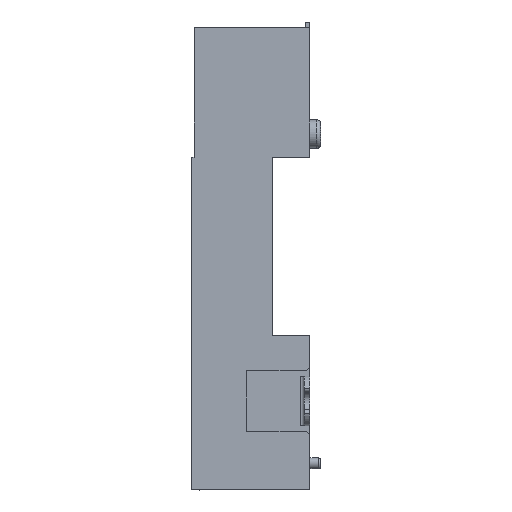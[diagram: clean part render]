
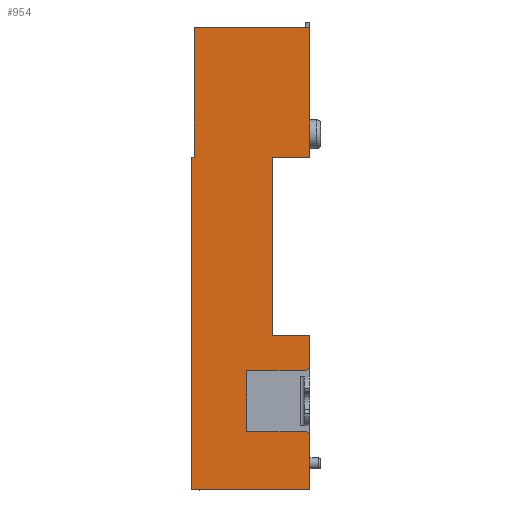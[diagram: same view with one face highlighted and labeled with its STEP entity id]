
A CAD part, left-side view. The second image highlights one B-rep face of the part: STEP entity #954.
In plain terms, the highlighted planar face has unit normal (-1, 0, 0).
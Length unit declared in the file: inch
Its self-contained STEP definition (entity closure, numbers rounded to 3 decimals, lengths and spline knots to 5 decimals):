
#954=ADVANCED_FACE('',(#2798),#2011,.F.);
#2011=PLANE('',#20230);
#2798=FACE_OUTER_BOUND('',#4362,.T.);
#4362=EDGE_LOOP('',(#6546,#6547,#6548,#6549,#6550,#6551,#6552,#6553,#6554,
#6555,#6556,#6557,#6558,#6559,#6560,#6561));
#6546=ORIENTED_EDGE('',*,*,#13780,.T.);
#6547=ORIENTED_EDGE('',*,*,#13781,.T.);
#6548=ORIENTED_EDGE('',*,*,#13782,.T.);
#6549=ORIENTED_EDGE('',*,*,#13783,.T.);
#6550=ORIENTED_EDGE('',*,*,#13772,.T.);
#6551=ORIENTED_EDGE('',*,*,#13543,.F.);
#6552=ORIENTED_EDGE('',*,*,#13784,.F.);
#6553=ORIENTED_EDGE('',*,*,#13785,.T.);
#6554=ORIENTED_EDGE('',*,*,#13745,.T.);
#6555=ORIENTED_EDGE('',*,*,#13786,.F.);
#6556=ORIENTED_EDGE('',*,*,#13787,.T.);
#6557=ORIENTED_EDGE('',*,*,#13788,.T.);
#6558=ORIENTED_EDGE('',*,*,#13789,.T.);
#6559=ORIENTED_EDGE('',*,*,#13790,.T.);
#6560=ORIENTED_EDGE('',*,*,#13791,.T.);
#6561=ORIENTED_EDGE('',*,*,#13792,.T.);
#11648=VERTEX_POINT('',#28552);
#11649=VERTEX_POINT('',#28554);
#11789=VERTEX_POINT('',#28970);
#11790=VERTEX_POINT('',#28972);
#11807=VERTEX_POINT('',#29023);
#11814=VERTEX_POINT('',#29039);
#11815=VERTEX_POINT('',#29040);
#11816=VERTEX_POINT('',#29042);
#11817=VERTEX_POINT('',#29044);
#11818=VERTEX_POINT('',#29047);
#11819=VERTEX_POINT('',#29050);
#11820=VERTEX_POINT('',#29052);
#11821=VERTEX_POINT('',#29054);
#11822=VERTEX_POINT('',#29056);
#11823=VERTEX_POINT('',#29058);
#11824=VERTEX_POINT('',#29060);
#13543=EDGE_CURVE('',#11648,#11649,#16271,.T.);
#13745=EDGE_CURVE('',#11790,#11789,#16458,.T.);
#13772=EDGE_CURVE('',#11807,#11649,#16485,.T.);
#13780=EDGE_CURVE('',#11814,#11815,#16493,.T.);
#13781=EDGE_CURVE('',#11815,#11816,#16494,.T.);
#13782=EDGE_CURVE('',#11816,#11817,#16495,.T.);
#13783=EDGE_CURVE('',#11817,#11807,#16496,.T.);
#13784=EDGE_CURVE('',#11818,#11648,#16497,.T.);
#13785=EDGE_CURVE('',#11818,#11790,#16498,.T.);
#13786=EDGE_CURVE('',#11819,#11789,#16499,.T.);
#13787=EDGE_CURVE('',#11819,#11820,#16500,.T.);
#13788=EDGE_CURVE('',#11820,#11821,#16501,.T.);
#13789=EDGE_CURVE('',#11821,#11822,#16502,.T.);
#13790=EDGE_CURVE('',#11822,#11823,#16503,.T.);
#13791=EDGE_CURVE('',#11823,#11824,#16504,.T.);
#13792=EDGE_CURVE('',#11824,#11814,#16505,.T.);
#16271=LINE('',#28553,#18497);
#16458=LINE('',#28971,#18684);
#16485=LINE('',#29022,#18711);
#16493=LINE('',#29038,#18719);
#16494=LINE('',#29041,#18720);
#16495=LINE('',#29043,#18721);
#16496=LINE('',#29045,#18722);
#16497=LINE('',#29046,#18723);
#16498=LINE('',#29048,#18724);
#16499=LINE('',#29049,#18725);
#16500=LINE('',#29051,#18726);
#16501=LINE('',#29053,#18727);
#16502=LINE('',#29055,#18728);
#16503=LINE('',#29057,#18729);
#16504=LINE('',#29059,#18730);
#16505=LINE('',#29061,#18731);
#18497=VECTOR('',#22456,1.);
#18684=VECTOR('',#22823,1.);
#18711=VECTOR('',#22864,1.);
#18719=VECTOR('',#22874,1.);
#18720=VECTOR('',#22875,1.);
#18721=VECTOR('',#22876,1.);
#18722=VECTOR('',#22877,1.);
#18723=VECTOR('',#22878,1.);
#18724=VECTOR('',#22879,1.);
#18725=VECTOR('',#22880,1.);
#18726=VECTOR('',#22881,1.);
#18727=VECTOR('',#22882,1.);
#18728=VECTOR('',#22883,1.);
#18729=VECTOR('',#22884,1.);
#18730=VECTOR('',#22885,1.);
#18731=VECTOR('',#22886,1.);
#20230=AXIS2_PLACEMENT_3D('',#29062,#22887,#22888);
#22456=DIRECTION('',(0.,1.,0.));
#22823=DIRECTION('',(0.,0.,-1.));
#22864=DIRECTION('',(0.,0.,1.));
#22874=DIRECTION('',(0.,-1.,0.));
#22875=DIRECTION('',(0.,-0.707,0.707));
#22876=DIRECTION('',(0.,0.,1.));
#22877=DIRECTION('',(0.,1.,0.));
#22878=DIRECTION('',(0.,0.,-1.));
#22879=DIRECTION('',(0.,1.,0.));
#22880=DIRECTION('',(0.,-1.,0.));
#22881=DIRECTION('',(0.,0.,-1.));
#22882=DIRECTION('',(0.,-1.,0.));
#22883=DIRECTION('',(0.,0.,1.));
#22884=DIRECTION('',(0.,0.707,0.707));
#22885=DIRECTION('',(0.,1.,0.));
#22886=DIRECTION('',(0.,0.,1.));
#22887=DIRECTION('',(1.,0.,0.));
#22888=DIRECTION('',(0.,0.,1.));
#28552=CARTESIAN_POINT('',(-0.97856,-0.03753,0.22441));
#28553=CARTESIAN_POINT('',(-0.97856,-0.03753,0.22441));
#28554=CARTESIAN_POINT('',(-0.97856,0.04515,0.22441));
#28970=CARTESIAN_POINT('',(-0.97856,0.21837,0.22441));
#28971=CARTESIAN_POINT('',(-0.97856,0.21837,0.));
#28972=CARTESIAN_POINT('',(-0.97856,0.21837,0.51181));
#29022=CARTESIAN_POINT('',(-0.97856,0.04515,-0.1437));
#29023=CARTESIAN_POINT('',(-0.97856,0.04515,-0.16929));
#29038=CARTESIAN_POINT('',(-0.97856,0.09337,-0.24803));
#29039=CARTESIAN_POINT('',(-0.97856,0.10223,-0.24803));
#29040=CARTESIAN_POINT('',(-0.97856,-0.02966,-0.24803));
#29041=CARTESIAN_POINT('',(-0.97856,-0.02966,-0.24803));
#29042=CARTESIAN_POINT('',(-0.97856,-0.03753,-0.24016));
#29043=CARTESIAN_POINT('',(-0.97856,-0.03753,0.));
#29044=CARTESIAN_POINT('',(-0.97856,-0.03753,-0.16929));
#29045=CARTESIAN_POINT('',(-0.97856,0.09337,-0.16929));
#29046=CARTESIAN_POINT('',(-0.97856,-0.03753,0.36811));
#29047=CARTESIAN_POINT('',(-0.97856,-0.03753,0.51181));
#29048=CARTESIAN_POINT('',(-0.97856,0.09337,0.51181));
#29049=CARTESIAN_POINT('',(-0.97856,0.22133,0.22441));
#29050=CARTESIAN_POINT('',(-0.97856,0.22428,0.22441));
#29051=CARTESIAN_POINT('',(-0.97856,0.22428,0.));
#29052=CARTESIAN_POINT('',(-0.97856,0.22428,-0.51181));
#29053=CARTESIAN_POINT('',(-0.97856,0.09337,-0.51181));
#29054=CARTESIAN_POINT('',(-0.97856,-0.03753,-0.51181));
#29055=CARTESIAN_POINT('',(-0.97856,-0.03753,0.));
#29056=CARTESIAN_POINT('',(-0.97856,-0.03753,-0.38976));
#29057=CARTESIAN_POINT('',(-0.97856,-0.03753,-0.38976));
#29058=CARTESIAN_POINT('',(-0.97856,-0.02966,-0.38189));
#29059=CARTESIAN_POINT('',(-0.97856,0.09337,-0.38189));
#29060=CARTESIAN_POINT('',(-0.97856,0.10223,-0.38189));
#29061=CARTESIAN_POINT('',(-0.97856,0.10223,0.));
#29062=CARTESIAN_POINT('',(-0.97856,-0.03753,-0.51181));
